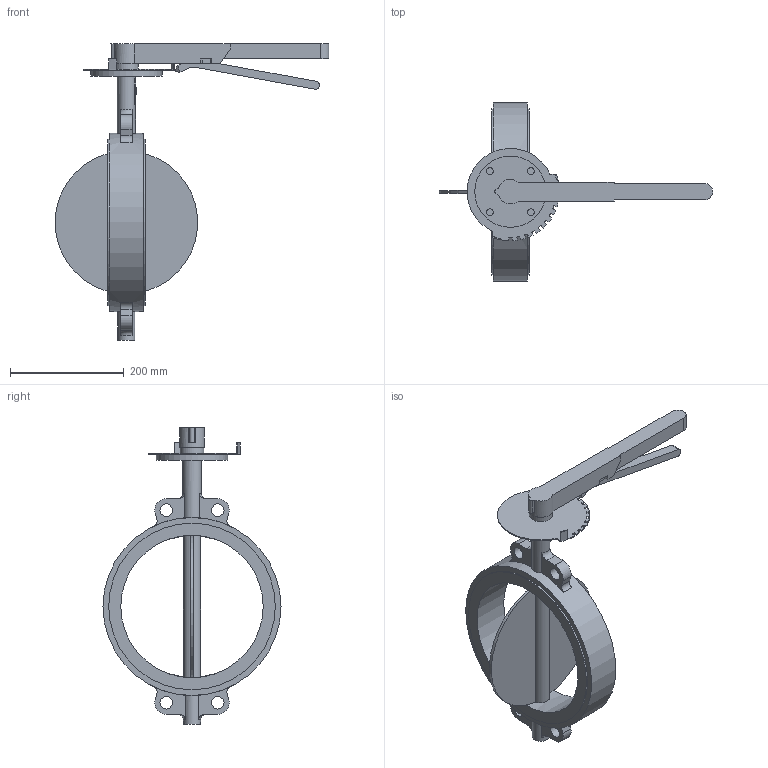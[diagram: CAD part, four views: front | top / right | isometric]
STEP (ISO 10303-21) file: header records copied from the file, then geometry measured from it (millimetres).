
FILE_DESCRIPTION(('STEP AP203'), '1');
FILE_NAME('Çàòâîð 017W.Y_DN250_PN10_ðóêîÿòü', '', ('UNSPECIFIED'), ('UNSPECIFIED'), 'ASCON STEP Converter 1.6', 'ASCON Math Kernel', '');
FILE_SCHEMA(('CONFIG_CONTROL_DESIGN'));
Length unit declared in the file: millimetre
Bounding box: 479.75 x 312.4 x 521 mm (x, y, z)
Volume: 2981322.2 mm3; surface area: 418103.8 mm2
Topology: 1 solids, 1 shells, 196 faces, 529 edges, 350 vertices
Faces by surface type: plane 110, cylinder 82, torus 4
Full cylindrical faces by diameter (mm): 12 x4, 22 x4, 30 x2, 32 x1, 41 x1, 125 x1, 250 x1, 292.4 x2, 312.4 x1
Entity records: 8928 total; most frequent: CARTESIAN_POINT 2284, DIRECTION 1072, ORIENTED_EDGE 1024, EDGE_CURVE 512, AXIS2_PLACEMENT_3D 383, VERTEX_POINT 350, LINE 306, VECTOR 306
